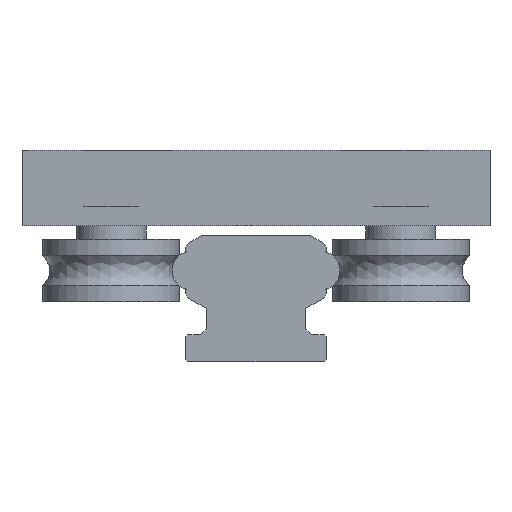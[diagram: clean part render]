
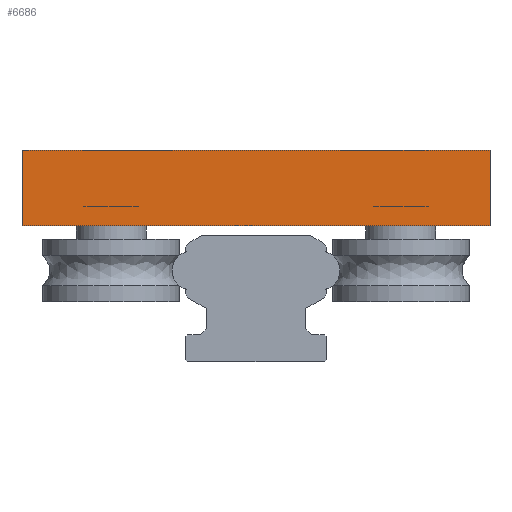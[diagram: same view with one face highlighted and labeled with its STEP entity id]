
A CAD part, left-side view. The second image highlights one B-rep face of the part: STEP entity #6686.
In plain terms, the highlighted planar face has unit normal (-1, 0, 0).
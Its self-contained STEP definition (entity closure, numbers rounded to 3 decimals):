
#6518=CARTESIAN_POINT('',(0.0,-60.0,30.9));
#6519=VERTEX_POINT('',#6518);
#6526=CARTESIAN_POINT('',(0.0,-60.0,11.5));
#6527=VERTEX_POINT('',#6526);
#6528=CARTESIAN_POINT('',(0.0,-60.0,30.9));
#6529=DIRECTION('',(0.0,0.0,-1.0));
#6530=VECTOR('',#6529,19.4);
#6531=LINE('',#6528,#6530);
#6532=EDGE_CURVE('',#6519,#6527,#6531,.T.);
#6556=CARTESIAN_POINT('',(0.0,60.0,30.9));
#6557=VERTEX_POINT('',#6556);
#6564=CARTESIAN_POINT('',(0.0,60.0,30.9));
#6565=DIRECTION('',(0.0,-1.0,0.0));
#6566=VECTOR('',#6565,120.0);
#6567=LINE('',#6564,#6566);
#6568=EDGE_CURVE('',#6557,#6519,#6567,.T.);
#6611=CARTESIAN_POINT('',(0.0,60.0,11.5));
#6612=VERTEX_POINT('',#6611);
#6619=CARTESIAN_POINT('',(0.0,60.0,11.5));
#6620=DIRECTION('',(0.0,0.0,1.0));
#6621=VECTOR('',#6620,19.4);
#6622=LINE('',#6619,#6621);
#6623=EDGE_CURVE('',#6612,#6557,#6622,.T.);
#6641=CARTESIAN_POINT('',(0.0,-60.0,11.5));
#6642=DIRECTION('',(0.0,1.0,0.0));
#6643=VECTOR('',#6642,120.0);
#6644=LINE('',#6641,#6643);
#6645=EDGE_CURVE('',#6527,#6612,#6644,.T.);
#6675=CARTESIAN_POINT('',(0.0,0.0,21.2));
#6676=DIRECTION('',(1.0,0.0,0.0));
#6677=DIRECTION('',(0.0,0.0,-1.0));
#6678=AXIS2_PLACEMENT_3D('',#6675,#6676,#6677);
#6679=PLANE('',#6678);
#6680=ORIENTED_EDGE('',*,*,#6645,.F.);
#6681=ORIENTED_EDGE('',*,*,#6532,.F.);
#6682=ORIENTED_EDGE('',*,*,#6568,.F.);
#6683=ORIENTED_EDGE('',*,*,#6623,.F.);
#6684=EDGE_LOOP('',(#6680,#6681,#6682,#6683));
#6685=FACE_OUTER_BOUND('',#6684,.T.);
#6686=ADVANCED_FACE('',(#6685),#6679,.F.);
